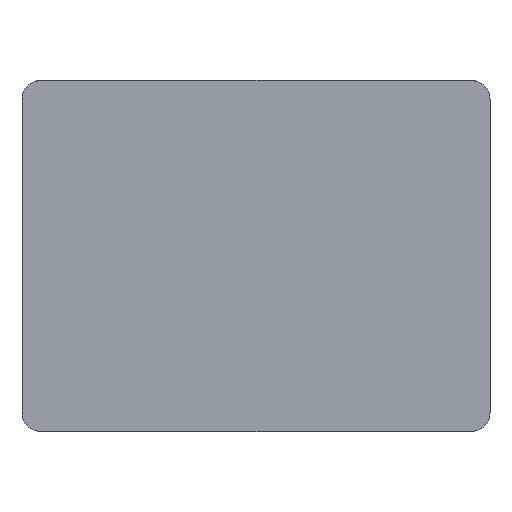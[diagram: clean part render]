
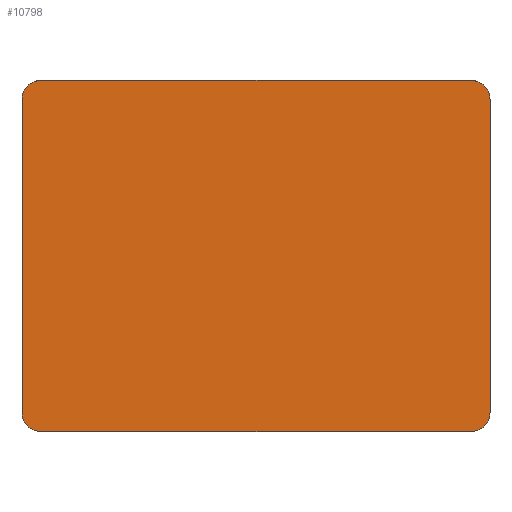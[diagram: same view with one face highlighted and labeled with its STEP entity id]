
A CAD part, left-side view. The second image highlights one B-rep face of the part: STEP entity #10798.
In plain terms, the highlighted planar face has unit normal (-1, 0, 0).
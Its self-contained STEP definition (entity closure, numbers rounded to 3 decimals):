
#1426=PLANE('',#11091);
#1993=FACE_OUTER_BOUND('',#2637,.T.);
#2637=EDGE_LOOP('',(#9990,#9991,#9992,#9993,#9994,#9995,#9996,#9997));
#3412=LINE('',#21928,#4183);
#3417=LINE('',#21957,#4188);
#3426=LINE('',#22000,#4197);
#3429=LINE('',#22009,#4200);
#4183=VECTOR('',#12249,10.);
#4188=VECTOR('',#12290,10.);
#4197=VECTOR('',#12341,10.);
#4200=VECTOR('',#12350,10.);
#4266=CIRCLE('',#11089,8.);
#4267=CIRCLE('',#11092,8.);
#4268=CIRCLE('',#11093,8.);
#4269=CIRCLE('',#11094,8.);
#5301=VERTEX_POINT('',#21922);
#5303=VERTEX_POINT('',#21926);
#5307=VERTEX_POINT('',#21951);
#5309=VERTEX_POINT('',#21955);
#5321=VERTEX_POINT('',#21995);
#5322=VERTEX_POINT('',#21999);
#5324=VERTEX_POINT('',#22006);
#5325=VERTEX_POINT('',#22008);
#6865=EDGE_CURVE('',#5303,#5301,#3412,.T.);
#6872=EDGE_CURVE('',#5309,#5307,#3417,.T.);
#6891=EDGE_CURVE('',#5307,#5321,#4266,.T.);
#6893=EDGE_CURVE('',#5321,#5322,#3426,.T.);
#6896=EDGE_CURVE('',#5301,#5309,#4267,.T.);
#6897=EDGE_CURVE('',#5324,#5303,#4268,.T.);
#6898=EDGE_CURVE('',#5325,#5324,#3429,.T.);
#6899=EDGE_CURVE('',#5322,#5325,#4269,.T.);
#9990=ORIENTED_EDGE('',*,*,#6891,.F.);
#9991=ORIENTED_EDGE('',*,*,#6872,.F.);
#9992=ORIENTED_EDGE('',*,*,#6896,.F.);
#9993=ORIENTED_EDGE('',*,*,#6865,.F.);
#9994=ORIENTED_EDGE('',*,*,#6897,.F.);
#9995=ORIENTED_EDGE('',*,*,#6898,.F.);
#9996=ORIENTED_EDGE('',*,*,#6899,.F.);
#9997=ORIENTED_EDGE('',*,*,#6893,.F.);
#10798=ADVANCED_FACE('',(#1993),#1426,.F.);
#11089=AXIS2_PLACEMENT_3D('',#21996,#12336,#12337);
#11091=AXIS2_PLACEMENT_3D('',#22004,#12344,#12345);
#11092=AXIS2_PLACEMENT_3D('',#22005,#12346,#12347);
#11093=AXIS2_PLACEMENT_3D('',#22007,#12348,#12349);
#11094=AXIS2_PLACEMENT_3D('',#22010,#12351,#12352);
#12249=DIRECTION('',(0.,0.,-1.));
#12290=DIRECTION('',(0.,1.,0.));
#12336=DIRECTION('center_axis',(1.,0.,0.));
#12337=DIRECTION('ref_axis',(0.,0.707,-0.707));
#12341=DIRECTION('',(0.,0.,1.));
#12344=DIRECTION('center_axis',(1.,0.,0.));
#12345=DIRECTION('ref_axis',(0.,1.,0.));
#12346=DIRECTION('center_axis',(1.,0.,0.));
#12347=DIRECTION('ref_axis',(0.,-0.707,-0.707));
#12348=DIRECTION('center_axis',(1.,0.,0.));
#12349=DIRECTION('ref_axis',(0.,-0.707,0.707));
#12350=DIRECTION('',(0.,-1.,0.));
#12351=DIRECTION('center_axis',(1.,0.,0.));
#12352=DIRECTION('ref_axis',(0.,0.707,0.707));
#21922=CARTESIAN_POINT('',(0.,0.,8.));
#21926=CARTESIAN_POINT('',(0.,0.,142.));
#21928=CARTESIAN_POINT('',(0.,0.,150.));
#21951=CARTESIAN_POINT('',(0.,192.,0.));
#21955=CARTESIAN_POINT('',(0.,8.,0.));
#21957=CARTESIAN_POINT('',(0.,0.,0.));
#21995=CARTESIAN_POINT('',(0.,200.,8.));
#21996=CARTESIAN_POINT('Origin',(0.,192.,8.));
#21999=CARTESIAN_POINT('',(0.,200.,142.));
#22000=CARTESIAN_POINT('',(0.,200.,0.));
#22004=CARTESIAN_POINT('Origin',(0.,100.,75.));
#22005=CARTESIAN_POINT('Origin',(0.,8.,8.));
#22006=CARTESIAN_POINT('',(0.,8.,150.));
#22007=CARTESIAN_POINT('Origin',(0.,8.,142.));
#22008=CARTESIAN_POINT('',(0.,192.,150.));
#22009=CARTESIAN_POINT('',(0.,200.,150.));
#22010=CARTESIAN_POINT('Origin',(0.,192.,142.));
